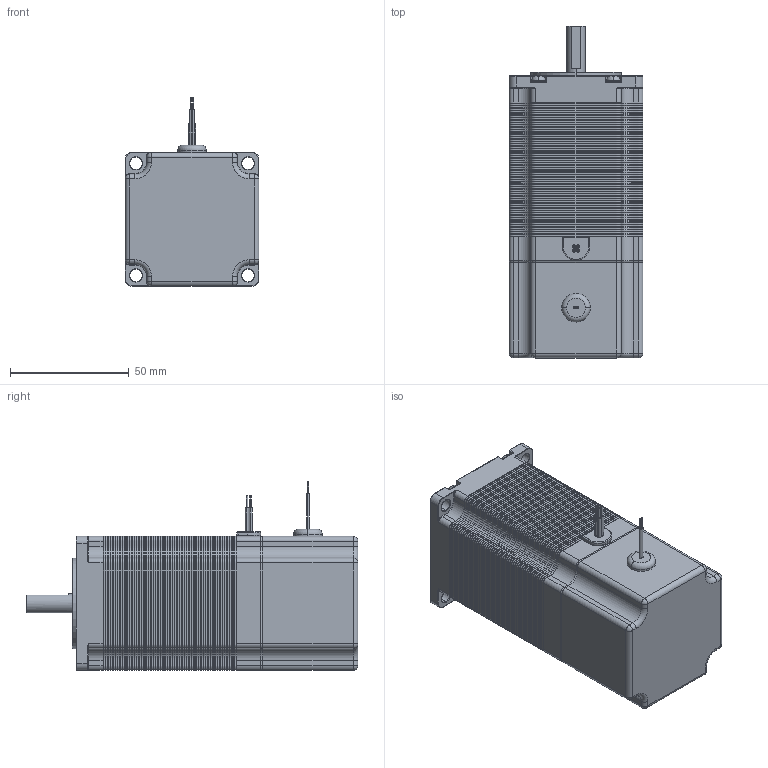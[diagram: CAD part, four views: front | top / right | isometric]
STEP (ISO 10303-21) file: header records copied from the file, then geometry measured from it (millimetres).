
FILE_DESCRIPTION (( 'STEP AP214' ), '1' );
FILE_NAME ('Nema 23 Stepper Motor length_80_mm_8mm_BRK.STEP', '2020-11-11T13:47:04', ( 'Moofasta' ), ( '' ), 'SwSTEP 2.0', 'SolidWorks 2020', '' );
FILE_SCHEMA (( 'AUTOMOTIVE_DESIGN' ));
Length unit declared in the file: millimetre
Products named in the file (1): Nema 23 Stepper Motor length_80_mm_8mm_BRK
Bounding box: 56.3 x 139.5 x 79.3 mm (x, y, z)
Volume: 341165.6 mm3; surface area: 357381.3 mm2
Topology: 72 solids, 73 shells, 4691 faces, 10664 edges, 6103 vertices
Faces by surface type: plane 2321, cone 1372, cylinder 870, torus 100, sphere 20, bspline 8
Entity records: 176678 total; most frequent: DIRECTION 23198, CARTESIAN_POINT 21885, ORIENTED_EDGE 21272, EDGE_CURVE 10636, AXIS2_PLACEMENT_3D 7952, VECTOR 7294, LINE 7294, VERTEX_POINT 6103
